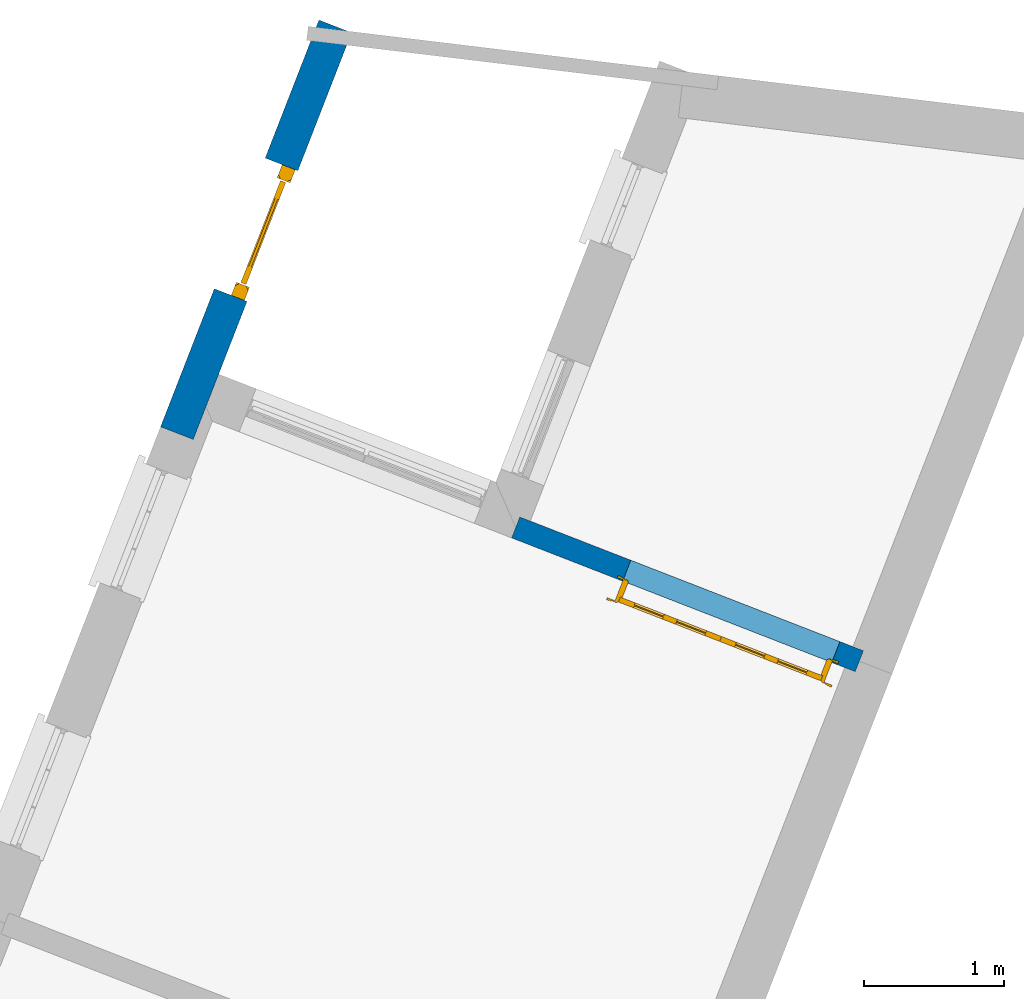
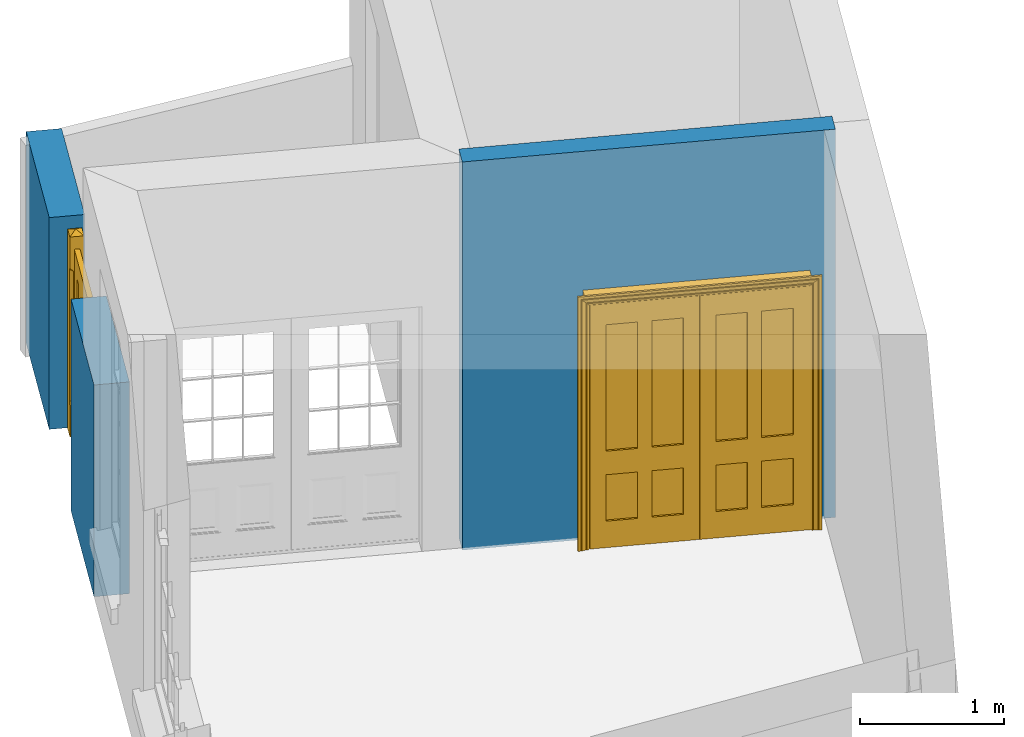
# One storey, part 5 of 6: 2 doors, 2 walls, 2 openings.
"""IFC4 building model written with IfcOpenShell, lengths in metres."""

from ifc_helpers import new_model, si_unit, frame, origin, origin_with_axes, place, context, subcontext, project, spatial, polyline, outline, extrude, faceted_brep, source, transform, mapped, material, layer, layer_set, layer_usage, type_object, type_shapes, element, fill, save


model = new_model("IFC4")

# Units and contexts
model_context = context("Model", 3, world=origin_with_axes())
body_context = subcontext(model_context, "Body", "Model", "MODEL_VIEW")
ifc_project = project(units=[si_unit("PLANEANGLEUNIT", "RADIAN"), si_unit("MASSUNIT", "GRAM", prefix="KILO"), si_unit("FORCEUNIT", "NEWTON", prefix="KILO"), si_unit("LENGTHUNIT", "METRE"), si_unit("AREAUNIT", "SQUARE_METRE"), si_unit("VOLUMEUNIT", "CUBIC_METRE")], contexts=[model_context, model_context])

# Sites, building, storey
site_1_placement = place(None, origin_with_axes())
site_1 = spatial("IfcSite", under=ifc_project, at=site_1_placement, Name="Tamar")
site_2_placement = place(site_1_placement, origin_with_axes())
site_2 = spatial("IfcSite", under=site_1, at=site_2_placement, Name="Site plot-9", CompositionType="ELEMENT")
building_placement = place(None, origin_with_axes())
building = spatial("IfcBuilding", under=site_2, at=building_placement, Name="Building plot-9", CompositionType="ELEMENT")
storey_placement = place(None, frame((0.0, 0.0, 26.8), z_axis=(0.0, 0.0, 1.0), x_axis=(1.0, 0.0, 0.0)))
storey = spatial("IfcBuildingStorey", under=building, at=storey_placement, Name="plot-9 0", CompositionType="ELEMENT", Elevation=26.8)

# Wall, opening, door
ifc_material_1 = material(Name="Masonry")
ifc_layer_1 = layer(ifc_material_1, 0.16, ventilated=False)
ifc_layer_set_1 = layer_set([ifc_layer_1], Name="interior_0.08_0.08")
ifc_layer_usage_1 = layer_usage(ifc_layer_set_1, "AXIS2", "POSITIVE", -0.08)
wall_type_1 = type_object("IfcWallType", Name="interior_0.08_0.08", PredefinedType="SOLIDWALL", material=ifc_layer_set_1)
wall_1_placement = place(storey_placement, frame((230.50959171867, 319.080953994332, 0.0), z_axis=(0.0, 0.0, 1.0), x_axis=(-0.931863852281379, 0.362808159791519, 0.0)))
wall_1 = element("IfcWall", 1, at=wall_1_placement, inside=storey, type_object=wall_type_1, material=ifc_layer_usage_1, Name="interior", context=body_context, shape_type="SweptSolid", body=[
    extrude(outline(polyline([(1.2581505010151e-14, 0.0800000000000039), (-1.25894714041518e-14, -0.0800000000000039), (2.62951862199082, -0.0800000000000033), (2.62951862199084, 0.0800000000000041), (1.2581505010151e-14, 0.0800000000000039)])), origin_with_axes(), (0.0, 0.0, 1.0), 3.3),
])
opening_1_placement = place(wall_1_placement, frame((0.179999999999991, 0.0, 0.0199999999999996)))
opening_1 = element("IfcOpeningElement", 2, at=opening_1_placement, cuts=wall_1, Name="My Opening", ObjectType="Opening", context=body_context, shape_type="SweptSolid", body=[
    extrude(outline(polyline([(0.0, -0.0999999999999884), (1.60000000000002, -0.100000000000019), (1.60000000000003, 1.09999999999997), (3.41393580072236e-15, 1.1), (0.0, -0.0999999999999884)])), origin_with_axes(), (0.0, 0.0, 1.0), 2.1),
])
door_type_1 = type_object("IfcDoorType", Name="door_inside_double", OperationType="SINGLE_SWING_LEFT", PredefinedType="NOTDEFINED")
shared_shape_1 = source(origin(), body_context, "Body", "Brep", [
    faceted_brep([(0.14, 0.307, 1.895), (0.14, 0.307, 0.82), (0.363, 0.307, 0.82), (0.363, 0.307, 1.895), (0.14, 0.292, 1.895), (0.14, 0.292, 0.82), (0.363, 0.292, 0.82), (0.363, 0.292, 1.895), (0.027, 0.292, 1.895), (0.027, 0.292, 0.82), (0.363, 0.292, 0.62), (0.14, 0.292, 0.62), (0.463, 0.292, 0.82), (0.463, 0.292, 1.895), (0.363, 0.292, 2.073), (0.14, 0.292, 2.073), (0.027, 0.292, 2.073), (0.027, 0.33, 1.895), (0.027, 0.33, 0.82), (0.027, 0.292, 0.62), (0.463, 0.292, 0.62), (0.14, 0.307, 0.62), (0.363, 0.307, 0.62), (0.463, 0.307, 0.82), (0.463, 0.307, 1.895), (0.463, 0.292, 2.073), (0.14, 0.33, 2.073), (0.363, 0.33, 2.073), (0.027, 0.33, 2.073), (0.14, 0.33, 1.895), (0.14, 0.33, 0.82), (0.027, 0.33, 0.62), (0.027, 0.292, 0.225), (0.14, 0.292, 0.225), (0.363, 0.292, 0.225), (0.463, 0.292, 0.225), (0.686, 0.292, 0.62), (0.686, 0.292, 0.82), (0.14, 0.307, 0.225), (0.363, 0.307, 0.225), (0.686, 0.307, 0.82), (0.686, 0.307, 1.895), (0.686, 0.292, 1.895), (0.686, 0.292, 2.073), (0.463, 0.33, 2.073), (0.363, 0.33, 1.895), (0.14, 0.315, 1.895), (0.14, 0.315, 0.82), (0.14, 0.33, 0.62), (0.027, 0.33, 0.225), (0.027, 0.292, 0.0), (0.14, 0.292, 0.0), (0.363, 0.292, 0.0), (0.463, 0.292, 0.0), (0.463, 0.307, 0.225), (0.463, 0.307, 0.62), (0.686, 0.307, 0.62), (0.799, 0.292, 0.62), (0.799, 0.292, 0.82), (0.799, 0.292, 1.895), (0.799, 0.292, 2.073), (0.686, 0.33, 2.073), (0.463, 0.33, 1.895), (0.363, 0.315, 1.895), (0.363, 0.315, 0.82), (0.363, 0.33, 0.82), (0.363, 0.33, 0.62), (0.14, 0.33, 0.225), (0.027, 0.33, 0.0), (0.14, 0.33, 0.0), (0.363, 0.33, 0.0), (0.463, 0.33, 0.0), (0.686, 0.292, 0.0), (0.686, 0.292, 0.225), (0.686, 0.307, 0.225), (0.799, 0.292, 0.225), (0.799, 0.33, 0.62), (0.799, 0.33, 0.82), (0.799, 0.33, 1.895), (0.799, 0.33, 2.073), (0.686, 0.33, 1.895), (0.463, 0.33, 0.82), (0.463, 0.33, 0.62), (0.363, 0.315, 0.62), (0.14, 0.315, 0.62), (0.14, 0.315, 0.225), (0.363, 0.33, 0.225), (0.463, 0.33, 0.225), (0.686, 0.33, 0.0), (0.799, 0.292, 0.0), (0.799, 0.33, 0.225), (0.686, 0.33, 0.62), (0.686, 0.33, 0.82), (0.686, 0.315, 1.895), (0.463, 0.315, 1.895), (0.463, 0.315, 0.82), (0.363, 0.315, 0.225), (0.686, 0.33, 0.225), (0.799, 0.33, 0.0), (0.686, 0.315, 0.82), (0.463, 0.315, 0.62), (0.463, 0.315, 0.225), (0.686, 0.315, 0.62), (0.686, 0.315, 0.225), (1.46, 0.33, 1.895), (1.237, 0.33, 1.895), (1.237, 0.33, 2.073), (1.46, 0.33, 2.073), (1.46, 0.315, 1.895), (1.237, 0.315, 1.895), (1.137, 0.33, 1.895), (1.137, 0.33, 2.073), (1.237, 0.292, 2.073), (1.46, 0.292, 2.073), (1.573, 0.33, 1.895), (1.573, 0.33, 2.073), (1.46, 0.33, 0.82), (1.46, 0.315, 0.82), (1.237, 0.315, 0.82), (1.237, 0.33, 0.82), (1.137, 0.33, 0.82), (0.914, 0.33, 2.073), (0.914, 0.33, 1.895), (1.137, 0.292, 2.073), (1.237, 0.292, 1.895), (1.46, 0.292, 1.895), (1.573, 0.292, 2.073), (1.573, 0.33, 0.82), (1.573, 0.292, 1.895), (1.237, 0.33, 0.62), (1.137, 0.33, 0.62), (1.137, 0.315, 0.82), (1.137, 0.315, 1.895), (0.914, 0.292, 2.073), (0.914, 0.315, 1.895), (0.801, 0.33, 2.073), (0.801, 0.33, 1.895), (1.137, 0.292, 1.895), (1.237, 0.307, 1.895), (1.46, 0.307, 1.895), (1.573, 0.292, 0.82), (1.573, 0.33, 0.62), (1.46, 0.33, 0.62), (1.237, 0.33, 0.225), (1.137, 0.33, 0.225), (0.914, 0.33, 0.82), (0.914, 0.33, 0.62), (0.914, 0.315, 0.82), (0.801, 0.292, 2.073), (0.914, 0.292, 1.895), (0.801, 0.33, 0.82), (0.801, 0.292, 1.895), (1.137, 0.292, 0.82), (1.237, 0.292, 0.82), (1.237, 0.307, 0.82), (1.46, 0.307, 0.82), (1.46, 0.292, 0.82), (1.573, 0.292, 0.62), (1.573, 0.33, 0.225), (1.46, 0.33, 0.225), (1.46, 0.315, 0.62), (1.237, 0.315, 0.62), (1.237, 0.33, 0.0), (1.137, 0.33, 0.0), (1.137, 0.315, 0.225), (1.137, 0.315, 0.62), (1.237, 0.315, 0.225), (0.914, 0.315, 0.62), (0.801, 0.33, 0.62), (0.914, 0.307, 1.895), (1.137, 0.307, 1.895), (0.801, 0.292, 0.82), (1.137, 0.292, 0.62), (1.237, 0.292, 0.62), (1.137, 0.307, 0.82), (1.46, 0.292, 0.62), (1.573, 0.292, 0.225), (1.573, 0.33, 0.0), (1.46, 0.33, 0.0), (1.46, 0.315, 0.225), (1.237, 0.292, 0.0), (1.137, 0.292, 0.0), (0.914, 0.33, 0.225), (0.914, 0.33, 0.0), (0.914, 0.315, 0.225), (0.801, 0.33, 0.225), (0.801, 0.292, 0.62), (0.914, 0.292, 0.82), (0.914, 0.307, 0.82), (1.137, 0.292, 0.225), (1.237, 0.292, 0.225), (0.914, 0.292, 0.62), (1.46, 0.292, 0.225), (1.573, 0.292, 0.0), (1.46, 0.292, 0.0), (0.914, 0.292, 0.0), (0.801, 0.33, 0.0), (0.801, 0.292, 0.225), (1.237, 0.307, 0.225), (1.237, 0.307, 0.62), (1.137, 0.307, 0.62), (1.137, 0.307, 0.225), (1.46, 0.307, 0.62), (0.914, 0.307, 0.62), (1.46, 0.307, 0.225), (0.914, 0.292, 0.225), (0.801, 0.292, 0.0), (0.914, 0.307, 0.225), (0.02, 0.335, 0.0), (0.005, 0.34, 0.0), (0.005, 0.34, 2.095), (0.02, 0.335, 2.08), (0.02, 0.33, 0.0), (0.0, 0.335, 0.0), (0.0, 0.335, 2.1), (1.595, 0.34, 2.095), (1.58, 0.335, 2.08), (0.02, 0.33, 2.08), (0.0, 0.33, 0.0), (-0.032, 0.345, 0.0), (-0.032, 0.345, 2.132), (1.6, 0.335, 2.1), (1.595, 0.34, 0.0), (1.58, 0.335, 0.0), (1.58, 0.33, 2.08), (0.025, 0.33, 0.0), (0.025, 0.33, 2.075), (-0.04, 0.34, 0.0), (0.025, 0.29, 0.0), (0.0, 0.17, 0.0), (-0.04, 0.34, 2.14), (1.632, 0.345, 2.132), (1.6, 0.335, 0.0), (1.58, 0.33, 0.0), (1.575, 0.33, 2.075), (0.025, 0.29, 2.075), (-0.06, 0.33, 0.0), (0.035, 0.17, 0.0), (0.0, 0.17, 2.1), (0.0, 0.33, 2.1), (-0.04, 0.345, 0.0), (-0.04, 0.345, 2.14), (1.64, 0.34, 2.14), (1.632, 0.345, 0.0), (1.6, 0.33, 0.0), (1.575, 0.33, 0.0), (1.575, 0.29, 2.075), (0.04, 0.29, 0.0), (0.04, 0.29, 2.06), (-0.06, 0.345, 0.0), (-0.06, 0.33, 2.16), (0.015, 0.165, 0.0), (0.04, 0.17, 0.0), (-0.045, 0.17, 2.145), (-0.045, 0.17, 0.0), (1.6, 0.17, 2.1), (1.6, 0.33, 2.1), (-0.06, 0.345, 2.16), (1.64, 0.345, 2.14), (1.64, 0.34, 0.0), (1.6, 0.17, 0.0), (1.575, 0.29, 0.0), (1.56, 0.29, 2.06), (0.04, 0.17, 2.06), (1.66, 0.33, 2.16), (-0.017, 0.155, 0.0), (-0.025, 0.16, 0.0), (0.02, 0.16, 0.0), (0.035, 0.165, 0.0), (0.035, 0.17, 2.065), (1.645, 0.17, 2.145), (-0.045, 0.155, 2.145), (-0.045, 0.155, 0.0), (1.66, 0.345, 2.16), (1.64, 0.345, 0.0), (1.66, 0.33, 0.0), (1.565, 0.17, 0.0), (1.56, 0.29, 0.0), (1.56, 0.17, 2.06), (-0.017, 0.155, 2.117), (-0.025, 0.16, 2.125), (0.015, 0.165, 2.085), (0.02, 0.16, 2.08), (0.035, 0.165, 2.065), (1.565, 0.17, 2.065), (1.645, 0.17, 0.0), (1.645, 0.155, 2.145), (-0.025, 0.155, 0.0), (1.66, 0.345, 0.0), (1.585, 0.165, 0.0), (1.56, 0.17, 0.0), (1.617, 0.155, 2.117), (1.625, 0.16, 2.125), (-0.025, 0.155, 2.125), (1.585, 0.165, 2.085), (1.58, 0.16, 2.08), (1.565, 0.165, 2.065), (1.625, 0.16, 0.0), (1.645, 0.155, 0.0), (1.625, 0.155, 2.125), (1.617, 0.155, 0.0), (1.565, 0.165, 0.0), (1.58, 0.16, 0.0), (1.625, 0.155, 0.0)], [[[0, 1, 2, 3]], [[1, 0, 4, 5]], [[2, 1, 5, 6]], [[6, 7, 3, 2]], [[7, 4, 0, 3]], [[4, 8, 9, 5]], [[10, 6, 5, 11]], [[6, 12, 13, 7]], [[14, 15, 4, 7]], [[15, 16, 8, 4]], [[9, 8, 17, 18]], [[5, 9, 19, 11]], [[10, 20, 12, 6]], [[10, 11, 21, 22]], [[13, 12, 23, 24]], [[7, 13, 25, 14]], [[26, 15, 14, 27]], [[28, 16, 15, 26]], [[8, 16, 28, 17]], [[17, 29, 30, 18]], [[18, 31, 19, 9]], [[11, 19, 32, 33]], [[34, 35, 20, 10]], [[20, 36, 37, 12]], [[11, 33, 38, 21]], [[39, 22, 21, 38]], [[34, 10, 22, 39]], [[12, 37, 40, 23]], [[24, 23, 40, 41]], [[42, 13, 24, 41]], [[13, 42, 43, 25]], [[14, 25, 44, 27]], [[26, 27, 45, 29]], [[28, 26, 29, 17]], [[30, 29, 46, 47]], [[18, 30, 48, 31]], [[31, 49, 32, 19]], [[33, 32, 50, 51]], [[52, 53, 35, 34]], [[20, 35, 54, 55]], [[36, 20, 55, 56]], [[36, 57, 58, 37]], [[33, 34, 39, 38]], [[37, 42, 41, 40]], [[42, 59, 60, 43]], [[44, 25, 43, 61]], [[62, 45, 27, 44]], [[29, 45, 63, 46]], [[46, 63, 64, 47]], [[65, 30, 47, 64]], [[30, 65, 66, 48]], [[31, 48, 67, 49]], [[68, 50, 32, 49]], [[68, 69, 51, 50]], [[34, 33, 51, 52]], [[53, 52, 70, 71]], [[53, 72, 73, 35]], [[35, 73, 74, 54]], [[55, 54, 74, 56]], [[73, 36, 56, 74]], [[73, 75, 57, 36]], [[57, 76, 77, 58]], [[37, 58, 59, 42]], [[78, 79, 60, 59]], [[60, 79, 61, 43]], [[80, 62, 44, 61]], [[81, 65, 45, 62]], [[45, 65, 64, 63]], [[82, 66, 65, 81]], [[48, 66, 83, 84]], [[67, 48, 84, 85]], [[49, 67, 69, 68]], [[52, 51, 69, 70]], [[71, 70, 86, 87]], [[72, 53, 71, 88]], [[72, 89, 75, 73]], [[75, 90, 76, 57]], [[76, 91, 92, 77]], [[78, 59, 58, 77]], [[78, 80, 61, 79]], [[62, 80, 93, 94]], [[81, 62, 94, 95]], [[87, 86, 66, 82]], [[91, 82, 81, 92]], [[66, 86, 96, 83]], [[84, 83, 96, 85]], [[86, 67, 85, 96]], [[67, 86, 70, 69]], [[88, 71, 87, 97]], [[89, 72, 88, 98]], [[89, 98, 90, 75]], [[90, 97, 91, 76]], [[80, 78, 77, 92]], [[80, 92, 99, 93]], [[99, 95, 94, 93]], [[92, 81, 95, 99]], [[87, 82, 100, 101]], [[82, 91, 102, 100]], [[97, 87, 101, 103]], [[98, 88, 97, 90]], [[91, 97, 103, 102]], [[103, 101, 100, 102]], [[104, 105, 106, 107]], [[105, 104, 108, 109]], [[105, 110, 111, 106]], [[106, 112, 113, 107]], [[114, 104, 107, 115]], [[104, 116, 117, 108]], [[117, 118, 109, 108]], [[119, 105, 109, 118]], [[119, 120, 110, 105]], [[121, 111, 110, 122]], [[123, 112, 106, 111]], [[124, 125, 113, 112]], [[126, 115, 107, 113]], [[104, 114, 127, 116]], [[114, 115, 126, 128]], [[116, 119, 118, 117]], [[129, 130, 120, 119]], [[110, 120, 131, 132]], [[121, 133, 123, 111]], [[122, 110, 132, 134]], [[135, 121, 122, 136]], [[137, 124, 112, 123]], [[125, 124, 138, 139]], [[125, 128, 126, 113]], [[114, 128, 140, 127]], [[141, 142, 116, 127]], [[142, 129, 119, 116]], [[143, 144, 130, 129]], [[145, 120, 130, 146]], [[120, 145, 147, 131]], [[134, 132, 131, 147]], [[135, 148, 133, 121]], [[123, 133, 149, 137]], [[145, 122, 134, 147]], [[136, 122, 145, 150]], [[151, 148, 135, 136]], [[152, 153, 124, 137]], [[124, 153, 154, 138]], [[138, 154, 155, 139]], [[156, 125, 139, 155]], [[156, 140, 128, 125]], [[157, 141, 127, 140]], [[158, 159, 142, 141]], [[129, 142, 160, 161]], [[162, 163, 144, 143]], [[130, 144, 164, 165]], [[143, 129, 161, 166]], [[146, 130, 165, 167]], [[150, 145, 146, 168]], [[133, 148, 151, 149]], [[137, 149, 169, 170]], [[171, 151, 136, 150]], [[172, 173, 153, 152]], [[152, 137, 170, 174]], [[153, 156, 155, 154]], [[175, 157, 140, 156]], [[176, 158, 141, 157]], [[177, 178, 159, 158]], [[142, 159, 179, 160]], [[179, 166, 161, 160]], [[180, 181, 163, 162]], [[182, 144, 163, 183]], [[178, 162, 143, 159]], [[144, 182, 184, 164]], [[167, 165, 164, 184]], [[159, 143, 166, 179]], [[182, 146, 167, 184]], [[168, 146, 182, 185]], [[150, 168, 186, 171]], [[149, 151, 171, 187]], [[149, 187, 188, 169]], [[169, 188, 174, 170]], [[189, 190, 173, 172]], [[173, 175, 156, 153]], [[172, 152, 187, 191]], [[187, 152, 174, 188]], [[192, 176, 157, 175]], [[193, 177, 158, 176]], [[193, 194, 178, 177]], [[181, 180, 190, 189]], [[181, 195, 183, 163]], [[194, 180, 162, 178]], [[185, 182, 183, 196]], [[168, 185, 197, 186]], [[187, 171, 186, 191]], [[173, 190, 198, 199]], [[189, 172, 200, 201]], [[175, 173, 199, 202]], [[172, 191, 203, 200]], [[194, 193, 176, 192]], [[192, 175, 202, 204]], [[180, 194, 192, 190]], [[189, 205, 195, 181]], [[196, 183, 195, 206]], [[196, 206, 197, 185]], [[191, 186, 197, 205]], [[190, 192, 204, 198]], [[199, 198, 204, 202]], [[201, 200, 203, 207]], [[205, 189, 201, 207]], [[191, 205, 207, 203]], [[205, 197, 206, 195]], [[208, 209, 210, 211]], [[208, 212, 213, 209]], [[209, 213, 214, 210]], [[211, 210, 215, 216]], [[211, 217, 212, 208]], [[218, 213, 212]], [[213, 219, 220, 214]], [[210, 214, 221, 215]], [[216, 215, 222, 223]], [[217, 211, 216, 224]], [[225, 212, 217, 226]], [[219, 213, 218, 227]], [[218, 212, 228, 229]], [[219, 227, 230, 220]], [[214, 220, 231, 221]], [[215, 221, 232, 222]], [[222, 232, 233, 223]], [[224, 216, 223, 233]], [[226, 217, 224, 234]], [[225, 228, 212]], [[235, 228, 225, 226]], [[236, 227, 218]], [[237, 229, 228]], [[229, 238, 239, 218]], [[227, 240, 241, 230]], [[220, 230, 242, 231]], [[221, 231, 243, 232]], [[244, 233, 232]], [[234, 224, 233, 245]], [[246, 235, 226, 234]], [[247, 228, 235, 248]], [[240, 227, 236, 249]], [[239, 250, 236, 218]], [[251, 229, 237]], [[252, 237, 228, 247]], [[253, 238, 229, 254]], [[238, 255, 256, 239]], [[241, 240, 257]], [[230, 241, 258, 242]], [[231, 242, 259, 243]], [[259, 244, 232, 243]], [[260, 261, 233, 244]], [[245, 233, 261]], [[261, 246, 234, 245]], [[248, 235, 246, 262]], [[248, 263, 252, 247]], [[250, 257, 249, 236]], [[240, 249, 257]], [[256, 264, 250, 239]], [[265, 266, 229, 251]], [[267, 251, 237, 268]], [[263, 269, 237, 252]], [[270, 255, 238, 253]], [[229, 266, 254]], [[271, 253, 254, 272]], [[256, 255, 260, 244]], [[273, 241, 257]], [[273, 258, 241]], [[242, 258, 274, 259]], [[275, 244, 259]], [[260, 276, 261]], [[261, 277, 262, 246]], [[262, 278, 263, 248]], [[264, 273, 257, 250]], [[244, 275, 264, 256]], [[266, 265, 279, 280]], [[265, 251, 281, 279]], [[251, 267, 282, 281]], [[269, 283, 268, 237]], [[267, 268, 283, 282]], [[278, 284, 269, 263]], [[285, 260, 255, 270]], [[286, 270, 253, 271]], [[272, 254, 266, 287]], [[271, 272, 287]], [[273, 274, 258]], [[288, 275, 259, 274]], [[276, 260, 289]], [[277, 261, 276, 290]], [[278, 262, 277, 290]], [[275, 288, 273, 264]], [[280, 279, 291, 292]], [[287, 266, 280, 293]], [[279, 281, 294, 291]], [[281, 282, 295, 294]], [[284, 296, 283, 269]], [[282, 283, 296, 295]], [[290, 276, 284, 278]], [[285, 297, 260]], [[298, 285, 270, 286]], [[299, 286, 271]], [[271, 287, 293]], [[273, 288, 274]], [[300, 289, 260, 297]], [[301, 276, 289, 302]], [[292, 291, 300, 297]], [[293, 280, 292, 299]], [[291, 294, 289, 300]], [[294, 295, 302, 289]], [[296, 284, 276, 301]], [[295, 296, 301, 302]], [[303, 297, 285, 298]], [[299, 298, 286]], [[271, 293, 299]], [[299, 292, 297, 303]], [[299, 303, 298]]]),
])
type_shapes(door_type_1, [shared_shape_1])
door_1_placement = place(storey_placement, frame((230.378137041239, 319.239445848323, 0.0199999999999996), z_axis=(0.0, 0.0, 1.0), x_axis=(-1.49098216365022, 0.580493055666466, 0.0)))
door_1 = element("IfcDoor", 3, at=door_1_placement, inside=storey, type_object=door_type_1, Name="kitchen living inside door", OverallHeight=2.1, OverallWidth=1.6, context=body_context, shape_type="MappedRepresentation", body=[
    mapped(shared_shape_1, transform((0.0, 0.0, 0.0), scale=1.0)),
])
fill(opening_1, door_1)

ifc_material_2 = material(Name="Masonry")
ifc_layer_2 = layer(ifc_material_2, 0.25, ventilated=False)
ifc_layer_set_2 = layer_set([ifc_layer_2], Name="fence_0_0.25")
ifc_layer_usage_2 = layer_usage(ifc_layer_set_2, "AXIS2", "POSITIVE", -0.25)
wall_type_2 = type_object("IfcWallType", Name="fence_0_0.25", PredefinedType="SOLIDWALL", material=ifc_layer_set_2)
wall_2_placement = place(storey_placement, frame((226.798254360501, 323.329863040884, 0.0), z_axis=(0.0, 0.0, 1.0), x_axis=(-0.362808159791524, -0.931863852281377, 0.0)))
wall_2 = element("IfcWall", 4, at=wall_2_placement, inside=storey, type_object=wall_type_2, material=ifc_layer_usage_2, Name="fence", context=body_context, shape_type="SweptSolid", body=[
    extrude(outline(polyline([(-0.249999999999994, -8.57933345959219e-15), (-0.249999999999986, -0.250000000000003), (2.86290127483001, -0.249999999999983), (2.86290127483, 1.01710685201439e-14), (-0.249999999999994, -8.57933345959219e-15)])), origin_with_axes(), (0.0, 0.0, 1.0), 1.8),
])
opening_2_placement = place(wall_2_placement, frame((0.806450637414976, 0.0, -0.0100000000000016)))
opening_2 = element("IfcOpeningElement", 5, at=opening_2_placement, cuts=wall_2, Name="My Opening", ObjectType="Opening", context=body_context, shape_type="SweptSolid", body=[
    extrude(outline(polyline([(0.0, -0.270000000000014), (1.00000000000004, -0.269999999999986), (1.00000000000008, 1.02000000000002), (4.31876756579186e-14, 1.01999999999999), (0.0, -0.270000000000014)])), origin_with_axes(), (0.0, 0.0, 1.0), 1.81),
])
door_type_2 = type_object("IfcDoorType", Name="gate-small", OperationType="SINGLE_SWING_LEFT", PredefinedType="NOTDEFINED")
shared_shape_2 = source(origin(), body_context, "Body", "Brep", [
    faceted_brep([(0.9, 0.25, 1.7), (0.9, 0.15, 1.7), (0.95, 0.2, 1.73), (1.0, 0.15, 1.433333), (1.0, 0.15, 1.7), (0.9, 0.15, 1.433333), (0.9, 0.25, 1.433333), (0.9, 0.25, 0.0), (1.0, 0.25, 0.0), (1.0, 0.15, 0.0), (0.9, 0.15, 0.0), (1.0, 0.25, 1.433333), (1.0, 0.25, 1.7), (0.9, 0.25, 0.266667), (1.0, 0.25, 0.266667), (1.0, 0.25, 0.291667), (0.925, 0.25, 0.291667), (0.925, 0.25, 1.408333), (1.0, 0.25, 1.408333), (1.0, 0.15, 0.266667), (1.0, 0.15, 0.291667), (1.0, 0.15, 1.408333), (0.9, 0.15, 0.266667), (0.9, 0.175, 0.291667), (0.9, 0.225, 0.291667), (0.925, 0.15, 0.291667), (0.9, 0.175, 1.408333), (0.925, 0.15, 1.408333), (0.9, 0.225, 1.408333), (0.0, 0.25, 1.7), (0.0, 0.15, 1.7), (0.05, 0.2, 1.73), (0.0, 0.25, 1.433333), (0.1, 0.25, 1.7), (0.1, 0.25, 1.433333), (0.1, 0.15, 1.7), (0.1, 0.15, 1.433333), (0.1, 0.15, 0.0), (0.0, 0.15, 0.0), (0.0, 0.25, 0.0), (0.1, 0.25, 0.0), (0.0, 0.15, 1.433333), (0.1, 0.15, 0.266667), (0.0, 0.15, 0.266667), (0.0, 0.15, 0.291667), (0.075, 0.15, 0.291667), (0.075, 0.15, 1.408333), (0.0, 0.15, 1.408333), (0.0, 0.25, 0.266667), (0.0, 0.25, 0.291667), (0.0, 0.25, 1.408333), (0.1, 0.25, 0.266667), (0.1, 0.225, 0.291667), (0.1, 0.175, 0.291667), (0.075, 0.25, 0.291667), (0.1, 0.225, 1.408333), (0.075, 0.25, 1.408333), (0.1, 0.175, 1.408333), (0.11, 0.18, 1.433333), (0.11, 0.18, 1.6), (0.11, 0.22, 1.6), (0.11, 0.22, 1.433333), (0.76, 0.22, 1.433333), (0.76, 0.22, 1.6), (0.89, 0.22, 1.6), (0.89, 0.22, 1.433333), (0.89, 0.18, 1.6), (0.89, 0.18, 1.433333), (0.24, 0.18, 1.433333), (0.24, 0.18, 1.6), (0.76, 0.22, 0.1), (0.89, 0.22, 0.1), (0.89, 0.18, 0.1), (0.76, 0.18, 0.1), (0.24, 0.22, 1.6), (0.76, 0.18, 1.6), (0.11, 0.22, 0.1), (0.24, 0.22, 0.1), (0.24, 0.18, 0.1), (0.11, 0.18, 0.1), (0.76, 0.18, 1.433333), (0.24, 0.22, 1.433333), (0.76, 0.18, 0.266667), (0.24, 0.18, 0.266667), (0.24, 0.22, 0.933333), (0.11, 0.22, 0.933333), (0.76, 0.18, 0.933333), (0.24, 0.18, 0.933333), (0.24, 0.18, 0.766667), (0.76, 0.18, 0.766667), (0.11, 0.22, 0.766667), (0.24, 0.22, 0.766667), (0.24, 0.22, 0.266667), (0.11, 0.22, 0.266667), (0.76, 0.22, 0.766667), (0.76, 0.21, 0.766667), (0.24, 0.21, 0.766667), (0.76, 0.22, 0.933333), (0.76, 0.21, 0.933333), (0.76, 0.21, 1.433333), (0.76, 0.22, 0.266667), (0.89, 0.18, 0.766667), (0.89, 0.18, 0.266667), (0.89, 0.18, 0.933333), (0.11, 0.18, 0.766667), (0.11, 0.18, 0.266667), (0.11, 0.18, 0.933333), (0.89, 0.22, 0.766667), (0.89, 0.22, 0.266667), (0.89, 0.22, 0.933333), (0.76, 0.19, 0.266667), (0.24, 0.19, 0.266667), (0.76, 0.19, 0.933333), (0.24, 0.19, 0.933333), (0.24, 0.19, 1.433333), (0.76, 0.19, 1.433333), (0.24, 0.19, 0.766667), (0.76, 0.19, 0.766667), (0.24, 0.21, 1.433333), (0.24, 0.21, 0.933333), (0.76, 0.21, 0.266667), (0.24, 0.21, 0.266667)], [[[0, 1, 2]], [[3, 4, 1]], [[3, 1, 5]], [[5, 1, 0]], [[5, 0, 6]], [[7, 8, 9]], [[7, 9, 10]], [[11, 12, 4]], [[11, 4, 3]], [[6, 0, 12]], [[6, 12, 11]], [[7, 13, 14]], [[7, 14, 8]], [[15, 14, 13]], [[15, 13, 16]], [[17, 18, 15]], [[17, 15, 16]], [[17, 6, 11]], [[17, 11, 18]], [[8, 14, 19]], [[8, 19, 9]], [[14, 15, 20]], [[14, 20, 19]], [[15, 18, 21]], [[15, 21, 20]], [[18, 11, 3]], [[18, 3, 21]], [[10, 22, 13]], [[10, 13, 7]], [[23, 24, 13]], [[23, 13, 22]], [[25, 23, 22]], [[5, 26, 27]], [[9, 19, 22]], [[9, 22, 10]], [[19, 20, 25]], [[19, 25, 22]], [[28, 17, 16]], [[28, 16, 24]], [[21, 3, 5]], [[21, 5, 27]], [[21, 27, 25]], [[21, 25, 20]], [[25, 27, 26]], [[25, 26, 23]], [[16, 13, 24]], [[26, 28, 24]], [[26, 24, 23]], [[28, 26, 5]], [[28, 5, 6]], [[17, 28, 6]], [[29, 30, 31]], [[32, 29, 33]], [[32, 33, 34]], [[34, 33, 35]], [[34, 35, 36]], [[37, 38, 39]], [[37, 39, 40]], [[41, 30, 29]], [[41, 29, 32]], [[36, 35, 30]], [[36, 30, 41]], [[37, 42, 43]], [[37, 43, 38]], [[44, 43, 42]], [[44, 42, 45]], [[46, 47, 44]], [[46, 44, 45]], [[46, 36, 41]], [[46, 41, 47]], [[38, 43, 48]], [[38, 48, 39]], [[43, 44, 49]], [[43, 49, 48]], [[44, 47, 50]], [[44, 50, 49]], [[47, 41, 32]], [[47, 32, 50]], [[40, 51, 42]], [[40, 42, 37]], [[52, 53, 42]], [[52, 42, 51]], [[54, 52, 51]], [[34, 55, 56]], [[39, 48, 51]], [[39, 51, 40]], [[48, 49, 54]], [[48, 54, 51]], [[57, 46, 45]], [[57, 45, 53]], [[50, 32, 34]], [[50, 34, 56]], [[50, 56, 54]], [[50, 54, 49]], [[54, 56, 55]], [[54, 55, 52]], [[45, 42, 53]], [[55, 57, 53]], [[55, 53, 52]], [[57, 55, 34]], [[57, 34, 36]], [[46, 57, 36]], [[33, 29, 31]], [[35, 33, 31]], [[35, 31, 30]], [[12, 0, 2]], [[4, 12, 2]], [[4, 2, 1]], [[58, 59, 60]], [[58, 60, 61]], [[62, 63, 64]], [[62, 64, 65]], [[65, 64, 66]], [[65, 66, 67]], [[68, 69, 59]], [[68, 59, 58]], [[70, 71, 72]], [[70, 72, 73]], [[74, 60, 59]], [[74, 59, 69]], [[64, 63, 75]], [[64, 75, 66]], [[74, 69, 75]], [[74, 75, 63]], [[76, 77, 78]], [[76, 78, 79]], [[77, 70, 73]], [[77, 73, 78]], [[67, 66, 75]], [[67, 75, 80]], [[81, 74, 63]], [[81, 63, 62]], [[61, 60, 74]], [[61, 74, 81]], [[82, 83, 78]], [[82, 78, 73]], [[75, 69, 68]], [[75, 68, 80]], [[61, 81, 84]], [[61, 84, 85]], [[86, 87, 88]], [[86, 88, 89]], [[90, 91, 92]], [[90, 92, 93]], [[76, 93, 92]], [[76, 92, 77]], [[91, 94, 95]], [[91, 95, 96]], [[90, 85, 84]], [[90, 84, 91]], [[62, 97, 98]], [[62, 98, 99]], [[77, 92, 100]], [[77, 100, 70]], [[101, 89, 82]], [[101, 82, 102]], [[91, 84, 97]], [[91, 97, 94]], [[67, 80, 86]], [[67, 86, 103]], [[72, 102, 82]], [[72, 82, 73]], [[88, 104, 105]], [[88, 105, 83]], [[101, 103, 86]], [[101, 86, 89]], [[68, 58, 106]], [[68, 106, 87]], [[78, 83, 105]], [[78, 105, 79]], [[107, 101, 102]], [[107, 102, 108]], [[88, 87, 106]], [[88, 106, 104]], [[65, 67, 103]], [[65, 103, 109]], [[71, 108, 102]], [[71, 102, 72]], [[94, 107, 108]], [[94, 108, 100]], [[107, 109, 103]], [[107, 103, 101]], [[62, 65, 109]], [[62, 109, 97]], [[70, 100, 108]], [[70, 108, 71]], [[105, 104, 90]], [[105, 90, 93]], [[94, 97, 109]], [[94, 109, 107]], [[106, 58, 61]], [[106, 61, 85]], [[79, 105, 93]], [[79, 93, 76]], [[83, 82, 110]], [[83, 110, 111]], [[104, 106, 85]], [[104, 85, 90]], [[87, 86, 112]], [[87, 112, 113]], [[114, 113, 112]], [[114, 112, 115]], [[68, 87, 113]], [[68, 113, 114]], [[80, 68, 114]], [[80, 114, 115]], [[86, 80, 115]], [[86, 115, 112]], [[116, 111, 110]], [[116, 110, 117]], [[88, 83, 111]], [[88, 111, 116]], [[89, 88, 116]], [[89, 116, 117]], [[82, 89, 117]], [[82, 117, 110]], [[118, 99, 98]], [[118, 98, 119]], [[84, 81, 118]], [[84, 118, 119]], [[81, 62, 99]], [[81, 99, 118]], [[97, 84, 119]], [[97, 119, 98]], [[96, 95, 120]], [[96, 120, 121]], [[94, 100, 120]], [[94, 120, 95]], [[100, 92, 121]], [[100, 121, 120]], [[92, 91, 96]], [[92, 96, 121]]]),
])
type_shapes(door_type_2, [shared_shape_2])
door_2_placement = place(storey_placement, frame((226.254064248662, 322.676319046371, -0.0100000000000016), z_axis=(0.0, 0.0, 1.0), x_axis=(-0.362808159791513, -0.931863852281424, 0.0)))
door_2 = element("IfcDoor", 6, at=door_2_placement, inside=storey, type_object=door_type_2, Name="gate", OverallHeight=1.81, OverallWidth=1.0, context=body_context, shape_type="MappedRepresentation", body=[
    mapped(shared_shape_2, transform((0.0, 0.0, 0.0), scale=1.0)),
])
fill(opening_2, door_2)

save(model, "model.ifc")
